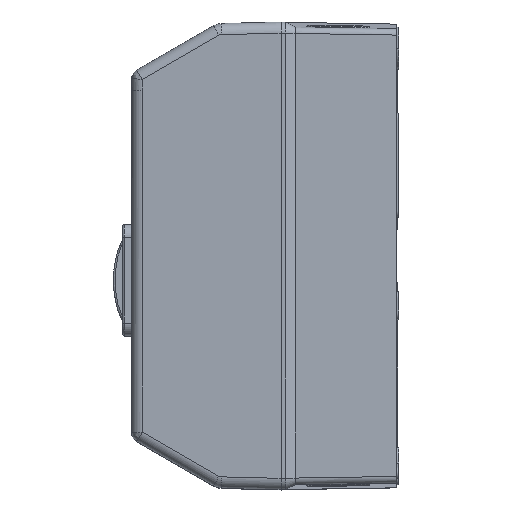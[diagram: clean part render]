
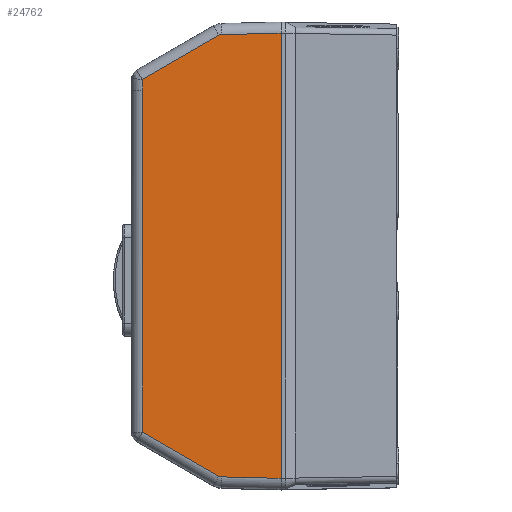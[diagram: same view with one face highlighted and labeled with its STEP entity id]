
A CAD part, top view. The second image highlights one B-rep face of the part: STEP entity #24762.
In plain terms, the highlighted planar face has unit normal (-0.025, 0, 1).
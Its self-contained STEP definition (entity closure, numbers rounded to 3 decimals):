
#323 = DIRECTION ( 'NONE',  ( 0., -1., 0. ) ) ;
#836 = DIRECTION ( 'NONE',  ( 0., -1., 0. ) ) ;
#1687 = CARTESIAN_POINT ( 'NONE',  ( 33.292, -52.799, -1.066 ) ) ;
#2126 = VERTEX_POINT ( 'NONE', #30199 ) ;
#2206 = ORIENTED_EDGE ( 'NONE', *, *, #31527, .T. ) ;
#2403 = ORIENTED_EDGE ( 'NONE', *, *, #53524, .F. ) ;
#3436 = LINE ( 'NONE', #39672, #41023 ) ;
#4114 = VERTEX_POINT ( 'NONE', #39017 ) ;
#4445 = VERTEX_POINT ( 'NONE', #33419 ) ;
#6306 = VERTEX_POINT ( 'NONE', #55076 ) ;
#6695 = ORIENTED_EDGE ( 'NONE', *, *, #19757, .F. ) ;
#7168 = LINE ( 'NONE', #47514, #34538 ) ;
#7570 = VERTEX_POINT ( 'NONE', #43323 ) ;
#8139 = ORIENTED_EDGE ( 'NONE', *, *, #31453, .F. ) ;
#8595 = CARTESIAN_POINT ( 'NONE',  ( 57.209, 71.627, -0.478 ) ) ;
#8809 = VERTEX_POINT ( 'NONE', #11749 ) ;
#8982 = FACE_OUTER_BOUND ( 'NONE', #26111, .T. ) ;
#9239 = VERTEX_POINT ( 'NONE', #42552 ) ;
#9255 = PLANE ( 'NONE',  #29729 ) ;
#9887 = CARTESIAN_POINT ( 'NONE',  ( 33.106, -52.691, -1.071 ) ) ;
#11555 = VECTOR ( 'NONE', #22168, 1000. ) ;
#11749 = CARTESIAN_POINT ( 'NONE',  ( 33.292, 57.791, -1.066 ) ) ;
#12028 = CARTESIAN_POINT ( 'NONE',  ( 57.922, -66.836, -0.461 ) ) ;
#13470 = CARTESIAN_POINT ( 'NONE',  ( 29.878, 59.809, -1.15 ) ) ;
#13573 = CARTESIAN_POINT ( 'NONE',  ( 57.427, 71.753, -0.473 ) ) ;
#14381 = VERTEX_POINT ( 'NONE', #23837 ) ;
#15628 = EDGE_CURVE ( 'NONE', #4114, #7570, #42091, .T. ) ;
#15667 = VERTEX_POINT ( 'NONE', #44423 ) ;
#15754 = LINE ( 'NONE', #48377, #41605 ) ;
#17651 = DIRECTION ( 'NONE',  ( 0., -1., 0. ) ) ;
#18530 = LINE ( 'NONE', #48730, #22683 ) ;
#19757 = EDGE_CURVE ( 'NONE', #15667, #2126, #18530, .T. ) ;
#19986 = ORIENTED_EDGE ( 'NONE', *, *, #15628, .F. ) ;
#20506 = CARTESIAN_POINT ( 'NONE',  ( 33.106, 57.683, -1.071 ) ) ;
#20824 = CARTESIAN_POINT ( 'NONE',  ( 57.67, -66.83, -0.467 ) ) ;
#20988 =( BOUNDED_CURVE ( )  B_SPLINE_CURVE ( 3, ( #12028, #20824, #25221, #51324 ),
 .UNSPECIFIED., .F., .T. ) 
 B_SPLINE_CURVE_WITH_KNOTS ( ( 4, 4 ),
 ( 1.596, 2.095 ),
 .UNSPECIFIED. ) 
 CURVE ( )  GEOMETRIC_REPRESENTATION_ITEM ( )  RATIONAL_B_SPLINE_CURVE ( ( 1., 0.979, 0.979, 1. ) ) 
 REPRESENTATION_ITEM ( '' )  );
#21602 = DIRECTION ( 'NONE',  ( -0.999, -0.025, -0.025 ) ) ;
#22168 = DIRECTION ( 'NONE',  ( -0.999, 0.025, -0.025 ) ) ;
#22683 = VECTOR ( 'NONE', #836, 1000. ) ;
#22755 = CARTESIAN_POINT ( 'NONE',  ( 58.008, -66.839, -0.459 ) ) ;
#23501 = CARTESIAN_POINT ( 'NONE',  ( 33.292, -34.367, -1.066 ) ) ;
#23837 = CARTESIAN_POINT ( 'NONE',  ( 57.922, 71.828, -0.461 ) ) ;
#24762 = ADVANCED_FACE ( 'NONE', ( #8982 ), #9255, .F. ) ;
#25221 = CARTESIAN_POINT ( 'NONE',  ( 57.427, -66.762, -0.473 ) ) ;
#25915 = LINE ( 'NONE', #22755, #11555 ) ;
#26111 = EDGE_LOOP ( 'NONE', ( #29974, #2206, #19986, #51792, #8139, #6695, #54155, #49526, #46483, #2403 ) ) ;
#26182 = CARTESIAN_POINT ( 'NONE',  ( 57.67, 71.822, -0.467 ) ) ;
#27467 =( BOUNDED_CURVE ( )  B_SPLINE_CURVE ( 3, ( #39540, #26182, #13573, #8595 ),
 .UNSPECIFIED., .F., .F. ) 
 B_SPLINE_CURVE_WITH_KNOTS ( ( 4, 4 ),
 ( 1.596, 2.095 ),
 .UNSPECIFIED. ) 
 CURVE ( )  GEOMETRIC_REPRESENTATION_ITEM ( )  RATIONAL_B_SPLINE_CURVE ( ( 1., 0.979, 0.979, 1. ) ) 
 REPRESENTATION_ITEM ( '' )  );
#27834 = EDGE_CURVE ( 'NONE', #9239, #4114, #20988, .T. ) ;
#28120 = VERTEX_POINT ( 'NONE', #49373 ) ;
#29729 = AXIS2_PLACEMENT_3D ( 'NONE', #13470, #39440, #17651 ) ;
#29974 = ORIENTED_EDGE ( 'NONE', *, *, #52740, .T. ) ;
#30199 = CARTESIAN_POINT ( 'NONE',  ( 76.678, -67.306, 0. ) ) ;
#31453 = EDGE_CURVE ( 'NONE', #2126, #9239, #25915, .T. ) ;
#31527 = EDGE_CURVE ( 'NONE', #6306, #7570, #37688, .T. ) ;
#33419 = CARTESIAN_POINT ( 'NONE',  ( 57.209, 71.627, -0.478 ) ) ;
#34450 = EDGE_CURVE ( 'NONE', #15667, #14381, #7168, .T. ) ;
#34538 = VECTOR ( 'NONE', #21602, 1000. ) ;
#36003 = VECTOR ( 'NONE', #48614, 1000. ) ;
#36650 = CARTESIAN_POINT ( 'NONE',  ( 33.292, 2.496, -1.066 ) ) ;
#37688 = B_SPLINE_CURVE_WITH_KNOTS ( 'NONE', 3,
 ( #36650, #49394, #23501, #1687 ),
 .UNSPECIFIED., .F., .F.,
 ( 4, 4 ),
 ( 0., 1. ),
 .UNSPECIFIED. ) ;
#37872 = DIRECTION ( 'NONE',  ( -0.865, -0.501, -0.021 ) ) ;
#39017 = CARTESIAN_POINT ( 'NONE',  ( 57.209, -66.635, -0.478 ) ) ;
#39440 = DIRECTION ( 'NONE',  ( 0.025, 0., -1. ) ) ;
#39540 = CARTESIAN_POINT ( 'NONE',  ( 57.922, 71.828, -0.461 ) ) ;
#39672 = CARTESIAN_POINT ( 'NONE',  ( 33.292, -53.087, -1.066 ) ) ;
#41023 = VECTOR ( 'NONE', #323, 1000. ) ;
#41605 = VECTOR ( 'NONE', #56567, 1000. ) ;
#42091 = LINE ( 'NONE', #9887, #36003 ) ;
#42552 = CARTESIAN_POINT ( 'NONE',  ( 57.922, -66.836, -0.461 ) ) ;
#43080 = VECTOR ( 'NONE', #37872, 1000. ) ;
#43323 = CARTESIAN_POINT ( 'NONE',  ( 33.292, -52.799, -1.066 ) ) ;
#43721 = EDGE_CURVE ( 'NONE', #14381, #4445, #27467, .T. ) ;
#44423 = CARTESIAN_POINT ( 'NONE',  ( 76.678, 72.297, 0. ) ) ;
#46483 = ORIENTED_EDGE ( 'NONE', *, *, #52177, .T. ) ;
#47514 = CARTESIAN_POINT ( 'NONE',  ( 58.008, 71.83, -0.459 ) ) ;
#48377 = CARTESIAN_POINT ( 'NONE',  ( 33.292, 59.809, -1.066 ) ) ;
#48614 = DIRECTION ( 'NONE',  ( -0.865, 0.501, -0.021 ) ) ;
#48730 = CARTESIAN_POINT ( 'NONE',  ( 76.678, -70.804, 0. ) ) ;
#49373 = CARTESIAN_POINT ( 'NONE',  ( 33.292, 54.419, -1.066 ) ) ;
#49394 = CARTESIAN_POINT ( 'NONE',  ( 33.292, -15.936, -1.066 ) ) ;
#49526 = ORIENTED_EDGE ( 'NONE', *, *, #43721, .T. ) ;
#49912 = LINE ( 'NONE', #20506, #43080 ) ;
#51324 = CARTESIAN_POINT ( 'NONE',  ( 57.209, -66.635, -0.478 ) ) ;
#51792 = ORIENTED_EDGE ( 'NONE', *, *, #27834, .F. ) ;
#52177 = EDGE_CURVE ( 'NONE', #4445, #8809, #49912, .T. ) ;
#52740 = EDGE_CURVE ( 'NONE', #28120, #6306, #3436, .T. ) ;
#53524 = EDGE_CURVE ( 'NONE', #28120, #8809, #15754, .T. ) ;
#54155 = ORIENTED_EDGE ( 'NONE', *, *, #34450, .T. ) ;
#55076 = CARTESIAN_POINT ( 'NONE',  ( 33.292, 2.496, -1.066 ) ) ;
#56567 = DIRECTION ( 'NONE',  ( 0., 1., 0. ) ) ;
